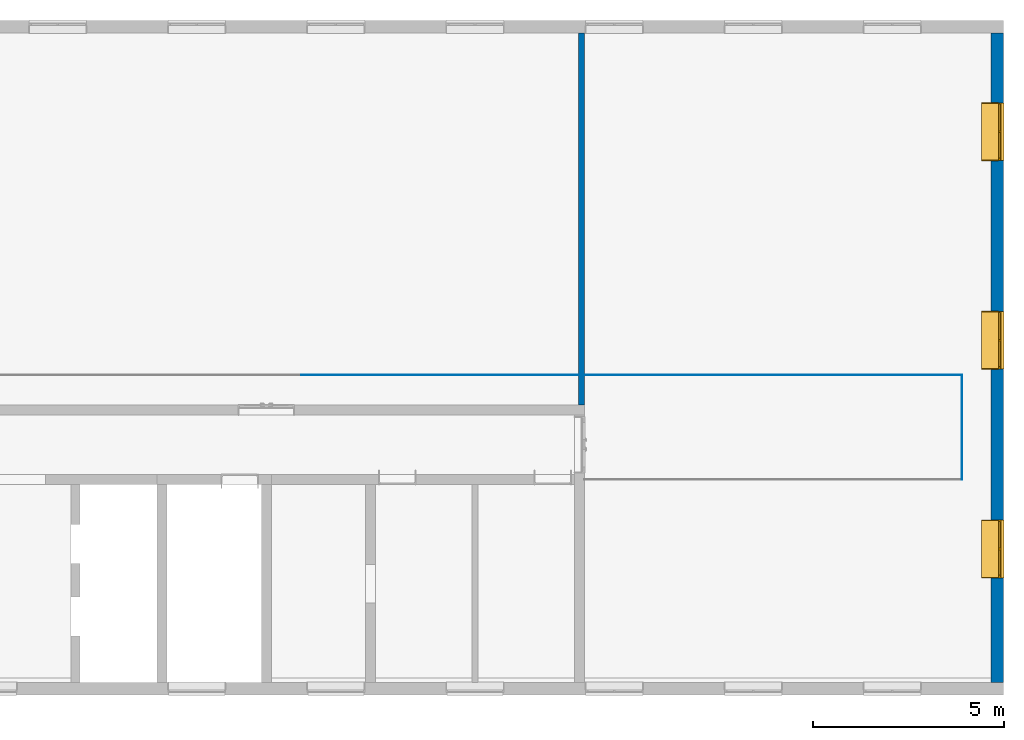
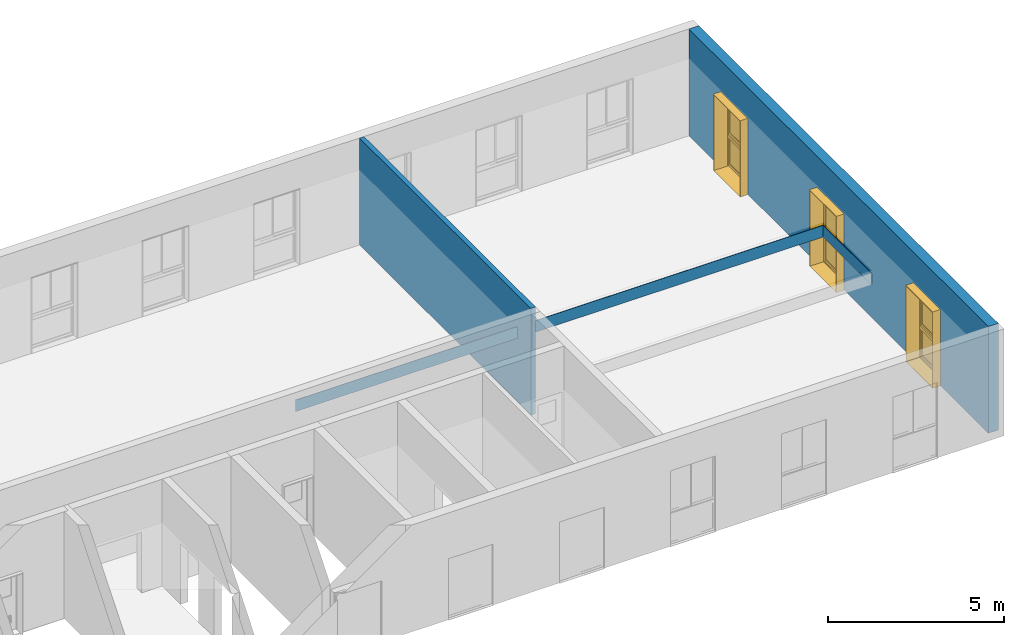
# One storey, part 14 of 15: 4 walls, 3 windows, 4 openings.
"""IFC4X3 building model written with IfcOpenShell, lengths in millimetres."""

from ifc_helpers import new_model, entity, si_unit, converted_unit, derived_unit, direction, frame, frame_2d, origin, place, context, subcontext, project, spatial, polyline, rectangle, outline, extrude, faceted_brep, source, transform, mapped, material, layer, layer_set, constituent, constituent_set, type_object, type_shapes, element, fill, save


model = new_model("IFC4X3")

# Units and contexts
model_context = context("Model", 3, precision=0.01, world=origin(), true_north=direction((6.12303176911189e-17, 1.0)))
body_context = subcontext(model_context, "Body", "Model", "MODEL_VIEW")
ifc_project = project(units=[si_unit("LENGTHUNIT", "METRE", prefix="MILLI"), si_unit("AREAUNIT", "SQUARE_METRE"), si_unit("VOLUMEUNIT", "CUBIC_METRE"), converted_unit("PLANEANGLEUNIT", "DEGREE", entity("IfcPlaneAngleMeasure", 0.0174532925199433), si_unit("PLANEANGLEUNIT", "RADIAN"), dimensions=[0, 0, 0, 0, 0, 0, 0]), si_unit("MASSUNIT", "GRAM", prefix="KILO"), derived_unit("MASSDENSITYUNIT", [(si_unit("MASSUNIT", "GRAM", prefix="KILO"), 1), (si_unit("LENGTHUNIT", "METRE"), -3)]), derived_unit("IONCONCENTRATIONUNIT", [(si_unit("MASSUNIT", "GRAM", prefix="KILO"), 1), (si_unit("LENGTHUNIT", "METRE"), -3)]), derived_unit("MOMENTOFINERTIAUNIT", [(si_unit("LENGTHUNIT", "METRE"), 4)]), si_unit("TIMEUNIT", "SECOND"), si_unit("FREQUENCYUNIT", "HERTZ"), si_unit("THERMODYNAMICTEMPERATUREUNIT", "DEGREE_CELSIUS"), derived_unit("THERMALTRANSMITTANCEUNIT", [(si_unit("MASSUNIT", "GRAM", prefix="KILO"), 1), (si_unit("THERMODYNAMICTEMPERATUREUNIT", "KELVIN"), -1), (si_unit("TIMEUNIT", "SECOND"), -3)]), derived_unit("THERMALCONDUCTANCEUNIT", [(si_unit("MASSUNIT", "GRAM", prefix="KILO"), 1), (si_unit("THERMODYNAMICTEMPERATUREUNIT", "KELVIN"), -1), (si_unit("TIMEUNIT", "SECOND"), -3), (si_unit("LENGTHUNIT", "METRE"), 1)]), derived_unit("VOLUMETRICFLOWRATEUNIT", [(si_unit("LENGTHUNIT", "METRE", prefix="DECI"), 3), (si_unit("TIMEUNIT", "SECOND"), -1)]), derived_unit("MASSFLOWRATEUNIT", [(si_unit("MASSUNIT", "GRAM", prefix="KILO"), 1), (si_unit("TIMEUNIT", "SECOND"), -1)]), derived_unit("ROTATIONALFREQUENCYUNIT", [(si_unit("TIMEUNIT", "SECOND"), -1)]), si_unit("ELECTRICCURRENTUNIT", "AMPERE"), si_unit("ELECTRICVOLTAGEUNIT", "VOLT"), si_unit("POWERUNIT", "WATT"), si_unit("FORCEUNIT", "NEWTON", prefix="KILO"), si_unit("ILLUMINANCEUNIT", "LUX"), si_unit("LUMINOUSFLUXUNIT", "LUMEN"), si_unit("LUMINOUSINTENSITYUNIT", "CANDELA"), si_unit("ENERGYUNIT", "JOULE"), derived_unit("USERDEFINED", [(si_unit("MASSUNIT", "GRAM", prefix="KILO"), -1), (si_unit("LENGTHUNIT", "METRE"), -2), (si_unit("TIMEUNIT", "SECOND"), 3), (si_unit("LUMINOUSFLUXUNIT", "LUMEN"), 1)]), derived_unit("USERDEFINED", [(si_unit("MASSUNIT", "GRAM", prefix="KILO"), 1), (si_unit("TIMEUNIT", "SECOND"), -3), (si_unit("LENGTHUNIT", "METRE"), 3), (si_unit("ELECTRICCURRENTUNIT", "AMPERE"), -2)]), derived_unit("SOUNDPOWERUNIT", [(si_unit("MASSUNIT", "GRAM", prefix="KILO"), 1), (si_unit("TIMEUNIT", "SECOND"), -3), (si_unit("LENGTHUNIT", "METRE"), 2)]), derived_unit("SOUNDPRESSUREUNIT", [(si_unit("MASSUNIT", "GRAM", prefix="KILO"), 1), (si_unit("LENGTHUNIT", "METRE"), -1), (si_unit("TIMEUNIT", "SECOND"), -2)]), derived_unit("LINEARVELOCITYUNIT", [(si_unit("LENGTHUNIT", "METRE"), 1), (si_unit("TIMEUNIT", "SECOND"), -1)]), si_unit("PRESSUREUNIT", "PASCAL"), derived_unit("USERDEFINED", [(si_unit("MASSUNIT", "GRAM", prefix="KILO"), 1), (si_unit("LENGTHUNIT", "METRE"), -2), (si_unit("TIMEUNIT", "SECOND"), -2)]), derived_unit("LINEARFORCEUNIT", [(si_unit("MASSUNIT", "GRAM", prefix="KILO"), 1), (si_unit("TIMEUNIT", "SECOND"), -2)]), derived_unit("PLANARFORCEUNIT", [(si_unit("MASSUNIT", "GRAM", prefix="KILO"), 1), (si_unit("LENGTHUNIT", "METRE"), -1), (si_unit("TIMEUNIT", "SECOND"), -2)]), derived_unit("SPECIFICHEATCAPACITYUNIT", [(si_unit("THERMODYNAMICTEMPERATUREUNIT", "KELVIN"), -1), (si_unit("LENGTHUNIT", "METRE"), 2), (si_unit("TIMEUNIT", "SECOND"), -2)]), derived_unit("HEATFLUXDENSITYUNIT", [(si_unit("MASSUNIT", "GRAM", prefix="KILO"), 1), (si_unit("TIMEUNIT", "SECOND"), -3)]), derived_unit("HEATINGVALUEUNIT", [(si_unit("LENGTHUNIT", "METRE"), 2), (si_unit("TIMEUNIT", "SECOND"), -2)]), derived_unit("VAPORPERMEABILITYUNIT", [(si_unit("LENGTHUNIT", "METRE"), -1), (si_unit("TIMEUNIT", "SECOND"), 1)]), derived_unit("DYNAMICVISCOSITYUNIT", [(si_unit("MASSUNIT", "GRAM", prefix="KILO"), 1), (si_unit("TIMEUNIT", "SECOND"), -1), (si_unit("LENGTHUNIT", "METRE"), -1)]), derived_unit("THERMALEXPANSIONCOEFFICIENTUNIT", [(si_unit("THERMODYNAMICTEMPERATUREUNIT", "KELVIN"), -1)]), derived_unit("MODULUSOFELASTICITYUNIT", [(si_unit("MASSUNIT", "GRAM", prefix="KILO"), 1), (si_unit("LENGTHUNIT", "METRE"), -1), (si_unit("TIMEUNIT", "SECOND"), -2)]), derived_unit("ISOTHERMALMOISTURECAPACITYUNIT", [(si_unit("MASSUNIT", "GRAM", prefix="KILO"), -1), (si_unit("LENGTHUNIT", "METRE"), 3)]), derived_unit("MOISTUREDIFFUSIVITYUNIT", [(si_unit("TIMEUNIT", "SECOND"), -1), (si_unit("LENGTHUNIT", "METRE"), 2)]), derived_unit("AREADENSITYUNIT", [(si_unit("MASSUNIT", "GRAM", prefix="KILO"), 1), (si_unit("LENGTHUNIT", "METRE"), 2)]), derived_unit("MASSPERLENGTHUNIT", [(si_unit("MASSUNIT", "GRAM", prefix="KILO"), 1), (si_unit("LENGTHUNIT", "METRE"), -1)]), derived_unit("THERMALRESISTANCEUNIT", [(si_unit("MASSUNIT", "GRAM", prefix="KILO"), -1), (si_unit("TIMEUNIT", "SECOND"), 3), (si_unit("THERMODYNAMICTEMPERATUREUNIT", "KELVIN"), 1)]), derived_unit("ACCELERATIONUNIT", [(si_unit("LENGTHUNIT", "METRE"), 1), (si_unit("TIMEUNIT", "SECOND"), -2)]), derived_unit("ANGULARVELOCITYUNIT", [(si_unit("TIMEUNIT", "SECOND"), -1), (si_unit("PLANEANGLEUNIT", "RADIAN"), 1)]), derived_unit("LINEARSTIFFNESSUNIT", [(si_unit("MASSUNIT", "GRAM", prefix="KILO"), 1), (si_unit("TIMEUNIT", "SECOND"), -2)]), derived_unit("WARPINGCONSTANTUNIT", [(si_unit("LENGTHUNIT", "METRE"), 6)]), derived_unit("LINEARMOMENTUNIT", [(si_unit("MASSUNIT", "GRAM", prefix="KILO"), 1), (si_unit("LENGTHUNIT", "METRE"), 1), (si_unit("TIMEUNIT", "SECOND"), -2)]), derived_unit("TORQUEUNIT", [(si_unit("MASSUNIT", "GRAM", prefix="KILO"), 1), (si_unit("LENGTHUNIT", "METRE"), 2), (si_unit("TIMEUNIT", "SECOND"), -2)])], contexts=[model_context])

# Site, building, storey
site_placement = place(None, origin())
site = spatial("IfcSite", under=ifc_project, at=site_placement, Name="Default", CompositionType="ELEMENT")
building_placement = place(site_placement, origin())
building = spatial("IfcBuilding", under=site, at=building_placement, Name="事務所ビル", CompositionType="ELEMENT")
storey_placement = place(building_placement, frame((0.0, 0.0, 4300.0)))
storey = spatial("IfcBuildingStorey", under=building, at=storey_placement, Name="2FL", CompositionType="ELEMENT", Elevation=4300.0)

# Wall, openings, windows
ifc_material_1 = material(Name="<Unnamed>")
ifc_layer_1 = layer(ifc_material_1, 46.0, Name="Layer")
ifc_material_2 = material(Name="合板", Category="一般")
ifc_layer_2 = layer(ifc_material_2, 12.0, Name="合板", Category="一般")
ifc_material_3 = material(Name="天然木材", Category="一般")
ifc_layer_3 = layer(ifc_material_3, 240.0, Name="天然木材", Category="一般")
ifc_layer_4 = layer(ifc_material_2, 12.0, Name="合板", Category="一般")
ifc_material_4 = material(Name="せっこうボード", Category="一般")
ifc_layer_5 = layer(ifc_material_4, 15.0, Name="せっこうボード", Category="一般")
ifc_layer_set_1 = layer_set([ifc_layer_1, ifc_layer_2, ifc_layer_3, ifc_layer_4, ifc_layer_5], Name="標準壁:外装材46_構造用合板12_木240_構造用合板12_GB-R15")
wall_type_1 = type_object("IfcWallType", Name="標準壁:外装材46_構造用合板12_木240_構", PredefinedType="STANDARD", material=ifc_layer_set_1)
wall_1_placement = place(storey_placement, frame((49155.4999999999, 147.0, 0.0), z_axis=(0.0, 0.0, 1.0), x_axis=(0.0, 1.0, 0.0)))
wall_1 = element("IfcWall", 1, at=wall_1_placement, inside=storey, type_object=wall_type_1, material=ifc_layer_set_1, Name="標準壁:外装材46_構造用合板12_木240_構造用合板12_GB-R15", ObjectType="標準壁:外装材46_構造用合板12_木240_構造用合板12_GB-R15", PredefinedType="NOTDEFINED", context=body_context, shape_type="SweptSolid", body=[
    extrude(rectangle(XDim=16996.0000000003, YDim=325.000000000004, at=frame_2d((8498.00000000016, -5.05906427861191e-12), x_axis=(1.0, 0.0))), origin(), (0.0, 0.0, 1.0), 3700.0),
])
opening_1_placement = place(wall_1_placement, frame((-147.0, 49155.4999999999, 0.0), z_axis=(0.0, 0.0, 1.0), x_axis=(0.0, -1.0, 0.0)))
opening_1 = element("IfcOpeningElement", 2, at=opening_1_placement, cuts=wall_1, Name="標準壁:外装材46_構造用合板12_木240_構造用合板12_GB-R15", PredefinedType="OPENING", context=body_context, shape_type="Brep", body=[
    faceted_brep([(49188.0, 2885.0, -105.0), (49188.0, 2885.0, -35.0), (49188.0, 4395.0, -35.0), (49188.0, 4395.0, -105.0), (49258.0, 2905.0, 2610.0), (49258.0, 2905.0, -10.0), (49318.0, 2905.0, -10.0), (49318.0, 2905.0, 2610.0), (49258.0, 4375.0, -10.0), (49258.0, 4375.0, 2610.0), (49318.0, 4375.0, 2610.0), (49318.0, 4375.0, -10.0), (48746.0, 2875.0, -35.0), (49188.0, 2875.0, -35.0), (49188.0, 2875.0, 2635.0), (48746.0, 2875.0, 2635.0), (48746.0, 4405.0, -35.0), (48746.0, 4405.0, 2635.0), (49188.0, 4405.0, 2635.0), (49188.0, 4405.0, -35.0), (49188.0, 2885.0, 2630.0), (49188.0, 4395.0, 2630.0), (49258.0, 2885.0, -115.769230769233), (49258.0, 2885.0, 2630.0), (49258.0, 4395.0, 2630.0), (49258.0, 4395.0, -115.769230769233)], [[[0, 1, 2, 3]], [[4, 5, 6, 7]], [[8, 9, 10, 11]], [[5, 8, 11, 6]], [[7, 10, 9, 4]], [[12, 13, 14, 15]], [[16, 17, 18, 19]], [[12, 16, 19, 2, 1, 13]], [[13, 1, 20, 21, 2, 19, 18, 14]], [[14, 18, 17, 15]], [[15, 17, 16, 12]], [[20, 1, 0, 22, 23]], [[3, 2, 21, 24, 25]], [[0, 3, 25, 22]], [[22, 25, 24, 23], [4, 9, 8, 5]], [[23, 24, 21, 20]], [[6, 11, 10, 7]]]),
])
opening_2_placement = place(wall_1_placement, frame((-147.0, 49155.4999999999, 0.0), z_axis=(0.0, 0.0, 1.0), x_axis=(0.0, -1.0, 0.0)))
opening_2 = element("IfcOpeningElement", 3, at=opening_2_placement, cuts=wall_1, Name="標準壁:外装材46_構造用合板12_木240_構造用合板12_GB-R15", PredefinedType="OPENING", context=body_context, shape_type="Brep", body=[
    faceted_brep([(49188.0, 8345.0, -105.0), (49188.0, 8345.0, -35.0), (49188.0, 9855.0, -35.0), (49188.0, 9855.0, -105.0), (49258.0, 8365.0, 2610.0), (49258.0, 8365.0, -10.0), (49318.0, 8365.0, -10.0), (49318.0, 8365.0, 2610.0), (49258.0, 9835.0, -10.0), (49258.0, 9835.0, 2610.0), (49318.0, 9835.0, 2610.0), (49318.0, 9835.0, -10.0), (48746.0, 8335.0, -35.0), (49188.0, 8335.0, -35.0), (49188.0, 8335.0, 2635.0), (48746.0, 8335.0, 2635.0), (48746.0, 9865.0, -35.0), (48746.0, 9865.0, 2635.0), (49188.0, 9865.0, 2635.0), (49188.0, 9865.0, -35.0), (49188.0, 8345.0, 2630.0), (49188.0, 9855.0, 2630.0), (49258.0, 8345.0, -115.769230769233), (49258.0, 8345.0, 2630.0), (49258.0, 9855.0, 2630.0), (49258.0, 9855.0, -115.769230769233)], [[[0, 1, 2, 3]], [[4, 5, 6, 7]], [[8, 9, 10, 11]], [[5, 8, 11, 6]], [[7, 10, 9, 4]], [[12, 13, 14, 15]], [[16, 17, 18, 19]], [[12, 16, 19, 2, 1, 13]], [[13, 1, 20, 21, 2, 19, 18, 14]], [[14, 18, 17, 15]], [[15, 17, 16, 12]], [[20, 1, 0, 22, 23]], [[3, 2, 21, 24, 25]], [[0, 3, 25, 22]], [[22, 25, 24, 23], [4, 9, 8, 5]], [[23, 24, 21, 20]], [[6, 11, 10, 7]]]),
])
opening_3_placement = place(wall_1_placement, frame((-147.0, 49155.4999999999, 0.0), z_axis=(0.0, 0.0, 1.0), x_axis=(0.0, -1.0, 0.0)))
opening_3 = element("IfcOpeningElement", 4, at=opening_3_placement, cuts=wall_1, Name="標準壁:外装材46_構造用合板12_木240_構造用合板12_GB-R15", PredefinedType="OPENING", context=body_context, shape_type="Brep", body=[
    faceted_brep([(49188.0, 13805.0, -105.0), (49188.0, 13805.0, -35.0), (49188.0, 15315.0, -35.0), (49188.0, 15315.0, -105.0), (49258.0, 13825.0, 2610.0), (49258.0, 13825.0, -10.0), (49318.0, 13825.0, -10.0), (49318.0, 13825.0, 2610.0), (49258.0, 15295.0, -10.0), (49258.0, 15295.0, 2610.0), (49318.0, 15295.0, 2610.0), (49318.0, 15295.0, -10.0), (48746.0, 13795.0, -35.0), (49188.0, 13795.0, -35.0), (49188.0, 13795.0, 2635.0), (48746.0, 13795.0, 2635.0), (48746.0, 15325.0, -35.0), (48746.0, 15325.0, 2635.0), (49188.0, 15325.0, 2635.0), (49188.0, 15325.0, -35.0), (49188.0, 13805.0, 2630.0), (49188.0, 15315.0, 2630.0), (49258.0, 13805.0, -115.769230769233), (49258.0, 13805.0, 2630.0), (49258.0, 15315.0, 2630.0), (49258.0, 15315.0, -115.769230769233)], [[[0, 1, 2, 3]], [[4, 5, 6, 7]], [[8, 9, 10, 11]], [[5, 8, 11, 6]], [[7, 10, 9, 4]], [[12, 13, 14, 15]], [[16, 17, 18, 19]], [[12, 16, 19, 2, 1, 13]], [[13, 1, 20, 21, 2, 19, 18, 14]], [[14, 18, 17, 15]], [[15, 17, 16, 12]], [[20, 1, 0, 22, 23]], [[3, 2, 21, 24, 25]], [[0, 3, 25, 22]], [[22, 25, 24, 23], [4, 9, 8, 5]], [[23, 24, 21, 20]], [[6, 11, 10, 7]]]),
])
ifc_material_5 = material(Name="ガラス - 透明", Category="未設定")
ifc_constituent_1 = constituent(ifc_material_5, Name="ガラス - 透明", Category="未設定")
ifc_material_6 = material(Name="金属 - アルミニウム", Category="未設定")
ifc_constituent_2 = constituent(ifc_material_6, Name="金属 - アルミニウム", Category="未設定")
ifc_material_7 = material(Name="塗装 - 白", Category="未設定")
ifc_constituent_3 = constituent(ifc_material_7, Name="塗装 - 白", Category="未設定")
ifc_constituent_set_1 = constituent_set(constituents=[ifc_constituent_1, ifc_constituent_2, ifc_constituent_3])
ifc_constituent_4 = constituent(ifc_material_5, Name="ガラス", Category="未設定")
ifc_constituent_5 = constituent(ifc_material_6, Name="フレーム/マリオン", Category="未設定")
ifc_constituent_6 = constituent(ifc_material_7, Name="縁飾り", Category="未設定")
ifc_constituent_set_2 = constituent_set(constituents=[ifc_constituent_4, ifc_constituent_5, ifc_constituent_6])
window_type = type_object("IfcWindowType", Name="鋼製_一般枠_2 段 1 列_嵌殺し+引違い:1450x2600", ParameterTakesPrecedence=False, PartitioningType="NOTDEFINED", PredefinedType="WINDOW", material=ifc_constituent_set_2)
shared_shape = source(origin(), body_context, "Body", "SweptSolid", [
    extrude(rectangle(XDim=5.0, YDim=664.999999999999, at=frame_2d((-4.21884749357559e-15, 0.0), x_axis=(1.0, 0.0))), frame((1117.5, 469.500000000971, 1295.76923076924), z_axis=(0.0, 0.0, 1.0), x_axis=(0.0, 1.0, 0.0)), (0.0, 0.0, 1.0), 1379.99999999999),
    extrude(rectangle(XDim=5.0, YDim=664.999999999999, at=frame_2d((-8.43769498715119e-15, 0.0), x_axis=(1.0, 0.0))), frame((412.5, 499.500000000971, 1295.76923076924), z_axis=(0.0, 0.0, 1.0), x_axis=(0.0, 1.0, 0.0)), (0.0, 0.0, 1.0), 1379.99999999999),
    extrude(outline(polyline([(-372.5, -750.0), (372.5, -750.0), (372.5, 750.0), (-372.5, 750.0), (-372.5, -750.0)]), holes=[polyline([(-332.5, -670.0), (-332.5, 710.0), (332.5, 710.0), (332.5, -670.0), (-332.5, -670.0)])]), frame((1117.5, 447.0, 1965.76923076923), z_axis=(0.0, 1.0, 0.0), x_axis=(-1.0, 0.0, 0.0)), (0.0, 0.0, 1.0), 30.0),
    extrude(outline(polyline([(-372.5, -750.0), (372.5, -750.0), (372.5, 750.0), (-372.5, 750.0), (-372.5, -750.0)]), holes=[polyline([(-332.5, -670.0), (-332.5, 710.0), (332.499999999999, 710.0), (332.499999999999, -670.0), (-332.5, -670.0)])]), frame((412.5, 477.0, 1965.76923076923), z_axis=(0.0, 1.0, 0.0), x_axis=(-1.0, 0.0, 0.0)), (0.0, 0.0, 1.0), 30.0),
    extrude(rectangle(XDim=5.0, YDim=1370.0, at=frame_2d((-8.43769498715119e-15, 0.0), x_axis=(1.0, 0.0))), frame((765.0, 499.500000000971, 205.769230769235), z_axis=(0.0, 0.0, 1.0), x_axis=(0.0, 1.0, 0.0)), (0.0, 0.0, 1.0), 869.999999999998),
    extrude(outline(polyline([(-725.0, -500.0), (725.0, -500.0), (725.0, 500.0), (-725.0, 500.0), (-725.0, -500.0)]), holes=[polyline([(-685.0, -410.0), (-685.0, 460.0), (685.0, 460.0), (685.0, -410.0), (-685.0, -410.0)])]), frame((765.0, 477.0, 615.769230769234), z_axis=(0.0, 1.0, 0.0), x_axis=(-1.0, 0.0, 0.0)), (0.0, 0.0, 1.0), 30.0),
    extrude(outline(polyline([(-43.5189986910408, -5.68477162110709), (32.1447310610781, -5.68477162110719), (37.1008705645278, -5.0239530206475), (35.7792333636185, 4.88832598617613), (30.8230938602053, 4.2275073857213), (31.5092934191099, -0.918989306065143), (-39.1116522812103, -0.918989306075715), (-39.8859354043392, 4.88813411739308), (-44.8406358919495, 4.22750738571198), (-43.5189986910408, -5.68477162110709)])), frame((10.0, 543.111433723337, 115.885959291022), z_axis=(1.0, 0.0, 0.0), x_axis=(0.0, -0.991227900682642, 0.132163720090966)), (0.0, 0.0, 1.0), 1510.0),
    extrude(rectangle(XDim=442.000000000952, YDim=1530.0, at=frame_2d((0.0, 5.6843418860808e-14), x_axis=(1.0, 0.0))), frame((765.0, 221.0, 105.769230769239), z_axis=(0.0, 0.0, 1.0), x_axis=(0.0, 1.0, 0.0)), (0.0, 0.0, 1.0), 9.99999999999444),
    extrude(outline(polyline([(-1311.25000000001, -765.0), (1323.75000000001, -765.0), (1323.75000000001, 765.0), (-1311.25000000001, 765.0), (-1311.25000000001, 740.0), (1298.75000000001, 740.0), (1298.75000000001, -740.0), (-1311.25000000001, -740.0), (-1311.25000000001, -765.0)])), frame((765.0, 0.0, 1427.01923076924), z_axis=(0.0, 1.0, 0.0), x_axis=(0.0, 0.0, 1.0)), (0.0, 0.0, 1.0), 442.000000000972),
    extrude(outline(polyline([(-1307.5, -755.0), (1322.5, -755.0), (1322.5, 755.0), (-1307.5, 755.0), (-1307.5, 725.0), (1292.5, 725.0), (1292.5, -725.0), (-1307.5, -725.0), (-1307.5, -755.0)])), frame((765.0, 442.0, 1423.26923076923), z_axis=(0.0, 1.0, 0.0), x_axis=(0.0, 0.0, 1.0)), (0.0, 0.0, 1.0), 69.9999999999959),
    extrude(rectangle(XDim=1450.0, YDim=70.0, at=frame_2d((0.0, 1.06581410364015e-14), x_axis=(1.0, 0.0))), frame((765.0, 477.0, 105.769230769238)), (0.0, 0.0, 1.0), 18.7551639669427),
    extrude(outline(polyline([(-47.4999999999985, -35.0), (42.4999999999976, -35.0), (52.4999999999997, 35.0), (-47.4999999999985, 35.0), (-47.4999999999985, -35.0)])), frame((40.0, 477.0, 1163.26923076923), z_axis=(1.0, 0.0, 0.0), x_axis=(0.0, 0.0, 1.0)), (0.0, 0.0, 1.0), 1450.0),
])
type_shapes(window_type, [shared_shape])
window_1_placement = place(opening_3_placement, frame((48746.0, 15325.0, -115.769230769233), z_axis=(0.0, 0.0, 1.0), x_axis=(0.0, -1.0, 0.0)))
window_1 = element("IfcWindow", 5, at=window_1_placement, inside=storey, type_object=window_type, material=ifc_constituent_set_1, Name="鋼製_一般枠_2 段 1 列_嵌殺し+引違い:1450x2600", ObjectType="鋼製_一般枠_2 段 1 列_嵌殺し+引違い:1450x2600", OverallHeight=2760.00000000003, OverallWidth=1532.0, PartitioningType="NOTDEFINED", PredefinedType="WINDOW", context=body_context, shape_type="MappedRepresentation", body=[
    mapped(shared_shape, transform((0.0, 0.0, 0.0), scale=1.0)),
])
fill(opening_3, window_1)
ifc_constituent_7 = constituent(ifc_material_5, Name="ガラス - 透明", Category="未設定")
ifc_constituent_8 = constituent(ifc_material_6, Name="金属 - アルミニウム", Category="未設定")
ifc_constituent_9 = constituent(ifc_material_7, Name="塗装 - 白", Category="未設定")
ifc_constituent_set_3 = constituent_set(constituents=[ifc_constituent_7, ifc_constituent_8, ifc_constituent_9])
window_2_placement = place(opening_2_placement, frame((48746.0, 9865.0, -115.769230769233), z_axis=(0.0, 0.0, 1.0), x_axis=(0.0, -1.0, 0.0)))
window_2 = element("IfcWindow", 6, at=window_2_placement, inside=storey, type_object=window_type, material=ifc_constituent_set_3, Name="鋼製_一般枠_2 段 1 列_嵌殺し+引違い:1450x2600", ObjectType="鋼製_一般枠_2 段 1 列_嵌殺し+引違い:1450x2600", OverallHeight=2760.00000000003, OverallWidth=1532.0, PartitioningType="NOTDEFINED", PredefinedType="WINDOW", context=body_context, shape_type="MappedRepresentation", body=[
    mapped(shared_shape, transform((0.0, 0.0, 0.0), scale=1.0)),
])
fill(opening_2, window_2)
ifc_constituent_10 = constituent(ifc_material_5, Name="ガラス - 透明", Category="未設定")
ifc_constituent_11 = constituent(ifc_material_6, Name="金属 - アルミニウム", Category="未設定")
ifc_constituent_12 = constituent(ifc_material_7, Name="塗装 - 白", Category="未設定")
ifc_constituent_set_4 = constituent_set(constituents=[ifc_constituent_10, ifc_constituent_11, ifc_constituent_12])
window_3_placement = place(opening_1_placement, frame((48746.0, 4405.0, -115.769230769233), z_axis=(0.0, 0.0, 1.0), x_axis=(0.0, -1.0, 0.0)))
window_3 = element("IfcWindow", 7, at=window_3_placement, inside=storey, type_object=window_type, material=ifc_constituent_set_4, Name="鋼製_一般枠_2 段 1 列_嵌殺し+引違い:1450x2600", ObjectType="鋼製_一般枠_2 段 1 列_嵌殺し+引違い:1450x2600", OverallHeight=2760.00000000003, OverallWidth=1532.0, PartitioningType="NOTDEFINED", PredefinedType="WINDOW", context=body_context, shape_type="MappedRepresentation", body=[
    mapped(shared_shape, transform((0.0, 0.0, 0.0), scale=1.0)),
])
fill(opening_1, window_3)

# Wall
ifc_layer_6 = layer(ifc_material_1, 15.0, Name="Layer")
ifc_layer_7 = layer(ifc_material_3, 120.0, Name="天然木材", Category="一般")
ifc_layer_8 = layer(ifc_material_1, 15.0, Name="Layer")
ifc_layer_set_2 = layer_set([ifc_layer_6, ifc_layer_7, ifc_layer_8], Name="標準壁:GB-R15_木120_GB-R15")
wall_type_2 = type_object("IfcWallType", Name="標準壁:GB-R15_木120_GB-R15", PredefinedType="STANDARD", material=ifc_layer_set_2)
wall_2_placement = place(storey_placement, frame((38277.0, 7412.0, 0.0), z_axis=(0.0, 0.0, 1.0), x_axis=(0.0, 1.0, 0.0)))
element("IfcWall", 8, at=wall_2_placement, inside=storey, type_object=wall_type_2, material=ifc_layer_set_2, Name="標準壁:GB-R15_木120_GB-R15", ObjectType="標準壁:GB-R15_木120_GB-R15", PredefinedType="NOTDEFINED", context=body_context, shape_type="SweptSolid", body=[
    extrude(rectangle(XDim=9730.99999999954, YDim=150.000000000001, at=frame_2d((4865.49999999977, -2.41584530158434e-13), x_axis=(-1.0, 0.0))), origin(), (0.0, 0.0, 1.0), 3700.0),
])

# Wall, opening
ifc_layer_9 = layer(ifc_material_1, 15.0, Name="Layer")
ifc_layer_set_3 = layer_set([ifc_layer_9], Name="標準壁:GB-R15")
wall_type_3 = type_object("IfcWallType", Name="標準壁:GB-R15", PredefinedType="STANDARD", material=ifc_layer_set_3)
wall_3_placement = place(storey_placement, frame((30940.0, 8190.0, 2200.0)))
wall_3 = element("IfcWall", 9, at=wall_3_placement, inside=storey, type_object=wall_type_3, material=ifc_layer_set_3, Name="標準壁:GB-R15", ObjectType="標準壁:GB-R15", PredefinedType="NOTDEFINED", context=body_context, shape_type="SweptSolid", body=[
    extrude(rectangle(XDim=17297.5, YDim=15.0000000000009, at=frame_2d((8648.75, 1.31894495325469e-13), x_axis=(-1.0, 0.0))), origin(), (0.0, 0.0, 1.0), 400.0),
])
opening_4_placement = place(storey_placement, frame((30940.0, 8190.0, 2200.0)))
element("IfcOpeningElement", 10, at=opening_4_placement, cuts=wall_3, Name="標準壁:GB-R15:1", PredefinedType="OPENING", context=body_context, shape_type="SweptSolid", body=[
    extrude(rectangle(XDim=400.0, YDim=14.9999999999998, at=frame_2d((0.0, 5.41344746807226e-13), x_axis=(1.0, 0.0))), frame((7262.0, 0.0, 200.0), z_axis=(1.0, 0.0, 0.0), x_axis=(0.0, 0.0, -1.0)), (0.0, 0.0, 1.0), 150.000000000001),
])

# Wall
wall_4_placement = place(storey_placement, frame((48230.0, 8182.4999999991, 2200.0), z_axis=(0.0, 0.0, 1.0), x_axis=(0.0, -1.0, 0.0)))
element("IfcWall", 11, at=wall_4_placement, inside=storey, type_object=wall_type_3, material=ifc_layer_set_3, Name="標準壁:GB-R15", ObjectType="標準壁:GB-R15", PredefinedType="NOTDEFINED", context=body_context, shape_type="SweptSolid", body=[
    extrude(rectangle(XDim=2729.99999999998, YDim=14.9999999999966, at=frame_2d((1364.99999999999, 0.0), x_axis=(-1.0, 0.0))), origin(), (0.0, 0.0, 1.0), 400.0),
])

save(model, "model.ifc")
